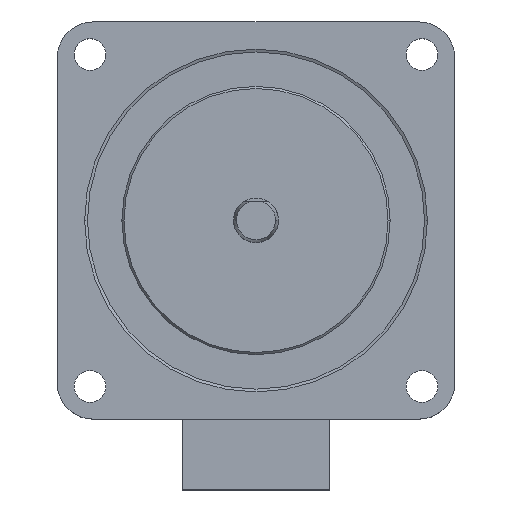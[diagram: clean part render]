
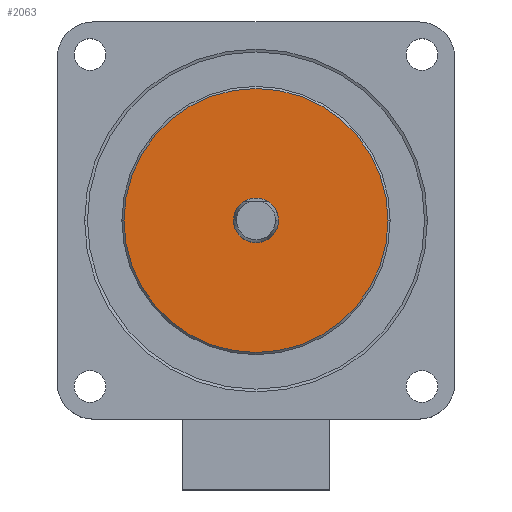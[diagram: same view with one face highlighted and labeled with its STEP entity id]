
A CAD part, top view. The second image highlights one B-rep face of the part: STEP entity #2063.
In plain terms, the highlighted planar face has unit normal (0, 0, 1).
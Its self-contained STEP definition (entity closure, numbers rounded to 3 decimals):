
#60 = FACE_OUTER_BOUND ( 'NONE', #1180, .T. ) ;
#131 = CARTESIAN_POINT ( 'NONE',  ( 0., 0., 0. ) ) ;
#146 = CIRCLE ( 'NONE', #1006, 3.175 ) ;
#159 = CARTESIAN_POINT ( 'NONE',  ( 0., 0., 0. ) ) ;
#363 = EDGE_CURVE ( 'NONE', #2213, #2498, #146, .T. ) ;
#539 = CIRCLE ( 'NONE', #2013, 3.175 ) ;
#636 = EDGE_CURVE ( 'NONE', #1353, #1647, #2660, .T. ) ;
#776 = DIRECTION ( 'NONE',  ( -1., 0., 0. ) ) ;
#804 = EDGE_LOOP ( 'NONE', ( #2739, #2493 ) ) ;
#885 = DIRECTION ( 'NONE',  ( -1., 0., 0. ) ) ;
#921 = CARTESIAN_POINT ( 'NONE',  ( 3.175, 0., 0. ) ) ;
#1006 = AXIS2_PLACEMENT_3D ( 'NONE', #2616, #2582, #885 ) ;
#1062 = AXIS2_PLACEMENT_3D ( 'NONE', #131, #2703, #776 ) ;
#1172 = DIRECTION ( 'NONE',  ( -1., 0., 0. ) ) ;
#1180 = EDGE_LOOP ( 'NONE', ( #2662, #2105 ) ) ;
#1314 = CARTESIAN_POINT ( 'NONE',  ( -18.75, 0., 0. ) ) ;
#1342 = DIRECTION ( 'NONE',  ( 0., 0., 1. ) ) ;
#1353 = VERTEX_POINT ( 'NONE', #1399 ) ;
#1399 = CARTESIAN_POINT ( 'NONE',  ( 18.75, 0., 0. ) ) ;
#1612 = DIRECTION ( 'NONE',  ( 0., 0., 1. ) ) ;
#1647 = VERTEX_POINT ( 'NONE', #1314 ) ;
#1787 = CIRCLE ( 'NONE', #2674, 18.75 ) ;
#1874 = PLANE ( 'NONE',  #1062 ) ;
#1886 = DIRECTION ( 'NONE',  ( 0., 0., -1. ) ) ;
#1940 = DIRECTION ( 'NONE',  ( -1., 0., 0. ) ) ;
#1946 = EDGE_CURVE ( 'NONE', #1647, #1353, #1787, .T. ) ;
#2010 = CARTESIAN_POINT ( 'NONE',  ( 0., 0., 0. ) ) ;
#2013 = AXIS2_PLACEMENT_3D ( 'NONE', #159, #1886, #1940 ) ;
#2021 = CARTESIAN_POINT ( 'NONE',  ( 0., 0., 0. ) ) ;
#2034 = DIRECTION ( 'NONE',  ( -1., 0., 0. ) ) ;
#2063 = ADVANCED_FACE ( 'NONE', ( #60, #2292 ), #1874, .F. ) ;
#2105 = ORIENTED_EDGE ( 'NONE', *, *, #636, .T. ) ;
#2121 = CARTESIAN_POINT ( 'NONE',  ( -3.175, 0., 0. ) ) ;
#2213 = VERTEX_POINT ( 'NONE', #2121 ) ;
#2280 = EDGE_CURVE ( 'NONE', #2498, #2213, #539, .T. ) ;
#2292 = FACE_BOUND ( 'NONE', #804, .T. ) ;
#2322 = AXIS2_PLACEMENT_3D ( 'NONE', #2021, #1612, #1172 ) ;
#2493 = ORIENTED_EDGE ( 'NONE', *, *, #2280, .T. ) ;
#2498 = VERTEX_POINT ( 'NONE', #921 ) ;
#2582 = DIRECTION ( 'NONE',  ( 0., 0., -1. ) ) ;
#2616 = CARTESIAN_POINT ( 'NONE',  ( 0., 0., 0. ) ) ;
#2660 = CIRCLE ( 'NONE', #2322, 18.75 ) ;
#2662 = ORIENTED_EDGE ( 'NONE', *, *, #1946, .T. ) ;
#2674 = AXIS2_PLACEMENT_3D ( 'NONE', #2010, #1342, #2034 ) ;
#2703 = DIRECTION ( 'NONE',  ( 0., 0., -1. ) ) ;
#2739 = ORIENTED_EDGE ( 'NONE', *, *, #363, .T. ) ;
